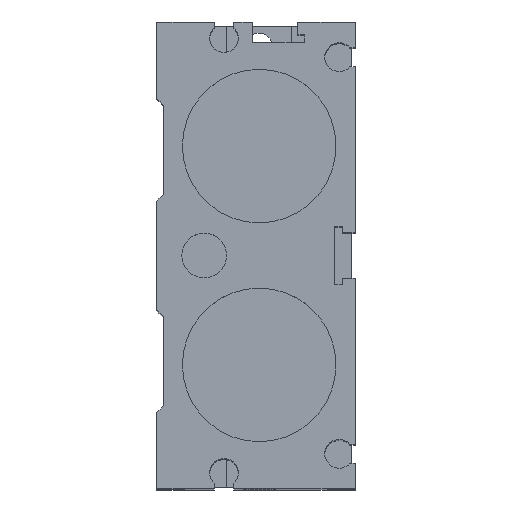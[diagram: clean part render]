
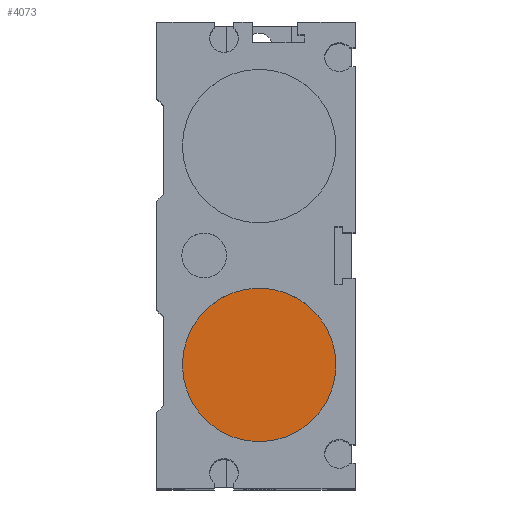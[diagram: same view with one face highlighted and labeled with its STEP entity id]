
A CAD part, top view. The second image highlights one B-rep face of the part: STEP entity #4073.
In plain terms, the highlighted planar face has unit normal (0, 0, 1).
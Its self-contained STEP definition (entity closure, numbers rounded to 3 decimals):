
#4050=CARTESIAN_POINT('',(12.,-17.1,141.0));
#4051=VERTEX_POINT('',#4050);
#4052=CARTESIAN_POINT('',(0.,-17.1,141.0));
#4053=DIRECTION('',(0.0,0.0,1.0));
#4054=DIRECTION('',(-1.0,0.0,0.0));
#4055=AXIS2_PLACEMENT_3D('',#4052,#4053,#4054);
#4056=CIRCLE('',#4055,12.);
#4057=EDGE_CURVE('',#4051,#4051,#4056,.T.);
#4065=CARTESIAN_POINT('',(0.,-17.1,141.0));
#4066=DIRECTION('',(0.0,0.0,-1.0));
#4067=DIRECTION('',(-1.0,0.0,0.0));
#4068=AXIS2_PLACEMENT_3D('',#4065,#4066,#4067);
#4069=PLANE('',#4068);
#4070=ORIENTED_EDGE('',*,*,#4057,.T.);
#4071=EDGE_LOOP('',(#4070));
#4072=FACE_OUTER_BOUND('',#4071,.T.);
#4073=ADVANCED_FACE('',(#4072),#4069,.F.);
